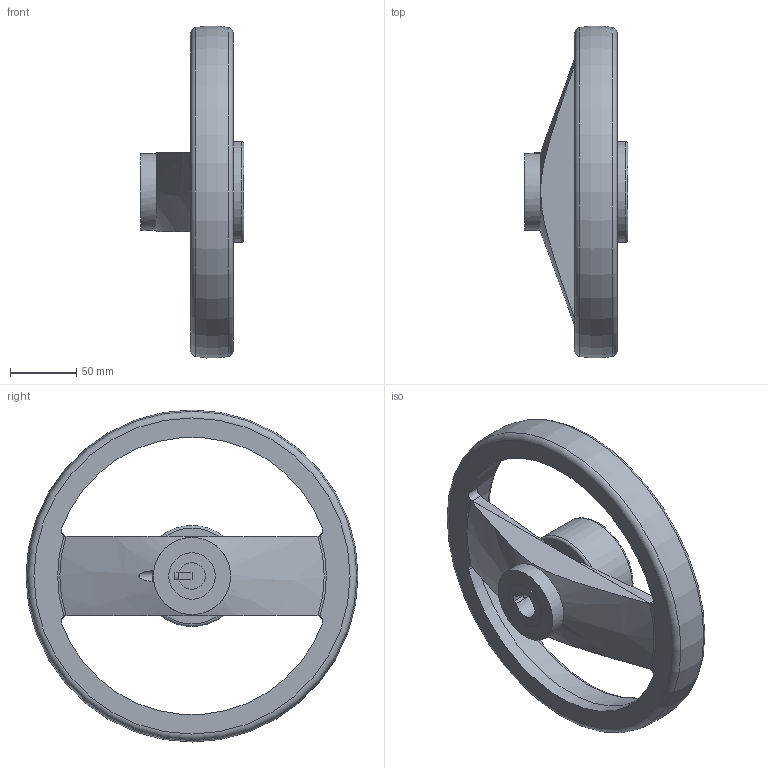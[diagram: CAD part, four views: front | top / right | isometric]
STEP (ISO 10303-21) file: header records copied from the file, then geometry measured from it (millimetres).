
FILE_DESCRIPTION( ( 'STEP AP203' ), '1' );
FILE_NAME( 'C:/Temp/Ganter_Step_05_03_2020/data/1_4/gn_522_8/gn_522_8_k/gn_522_8_k_a/Spoked handwheel GN 522.8-250-K20-A.stp', '2020-03-05T10:53:33', ( 'License CC BY-ND 4.0' ), ( 'CADENAS' ), ' ', 'PARTsolutions', ' ' );
FILE_SCHEMA( ( 'CONFIG_CONTROL_DESIGN' ) );
Length unit declared in the file: millimetre
Products named in the file (1): _Spoked handwheel GN 522.8-250-K20-A
Bounding box: 78 x 249.75 x 249.75 mm (x, y, z)
Volume: 741902.3 mm3; surface area: 129413.7 mm2
Topology: 1 solids, 1 shells, 72 faces, 169 edges, 110 vertices
Faces by surface type: plane 35, cylinder 23, torus 8, cone 6
Full cylindrical faces by diameter (mm): 6 x4, 8 x1, 35 x1, 58 x1, 67 x1, 68.8 x1, 76 x1
Entity records: 2274 total; most frequent: CARTESIAN_POINT 690, DIRECTION 322, ORIENTED_EDGE 278, EDGE_CURVE 139, AXIS2_PLACEMENT_3D 132, EDGE_LOOP 110, VERTEX_POINT 102, FACE_OUTER_BOUND 88
